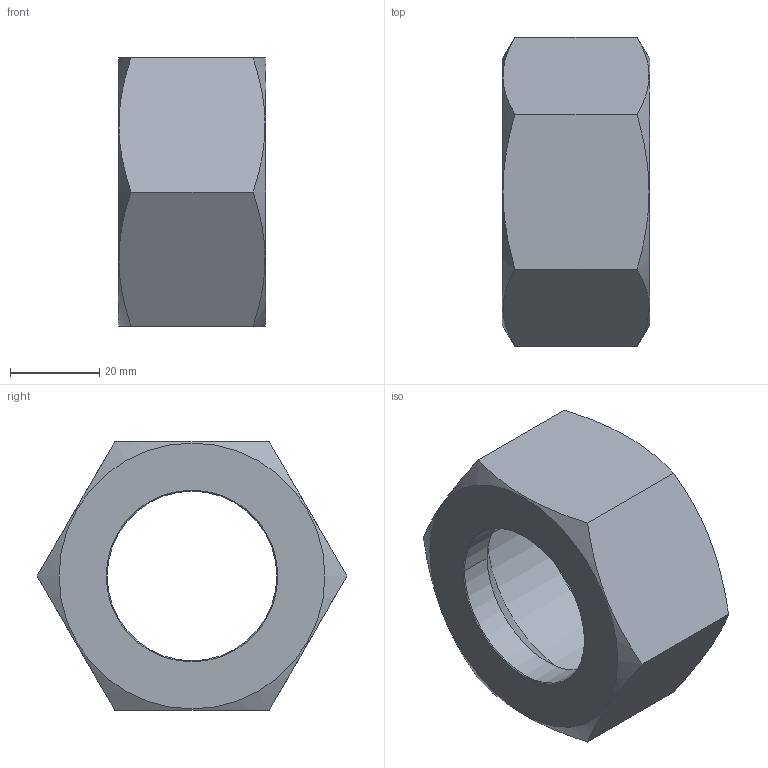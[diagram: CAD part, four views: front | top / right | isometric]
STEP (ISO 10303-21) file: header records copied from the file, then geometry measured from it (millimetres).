
FILE_DESCRIPTION((''),'2;1');
FILE_NAME('100223.stp','2006-03-06T15:09:20',('Dario Falcomer'),('CAST S.p.A.'),'AutoCAD STEP 2000i','AutoCAD 2000i',', , ');
FILE_SCHEMA(('CONFIG_CONTROL_DESIGN'));
Length unit declared in the file: millimetre
Products named in the file (2): 100223.0; CHIAVE_DADI#0
Assembly tree (1 placements, depth 2):
  100223.0
    CHIAVE_DADI#0
Bounding box: 33 x 69.28 x 60 mm (x, y, z)
Volume: 45977.6 mm3; surface area: 14644.7 mm2
Topology: 1 solids, 1 shells, 22 faces, 52 edges, 32 vertices
Faces by surface type: cone 10, plane 8, cylinder 4
Entity records: 725 total; most frequent: CARTESIAN_POINT 140, ORIENTED_EDGE 104, DIRECTION 100, EDGE_CURVE 52, AXIS2_PLACEMENT_3D 40, VERTEX_POINT 32, EDGE_LOOP 24, FACE_OUTER_BOUND 22
